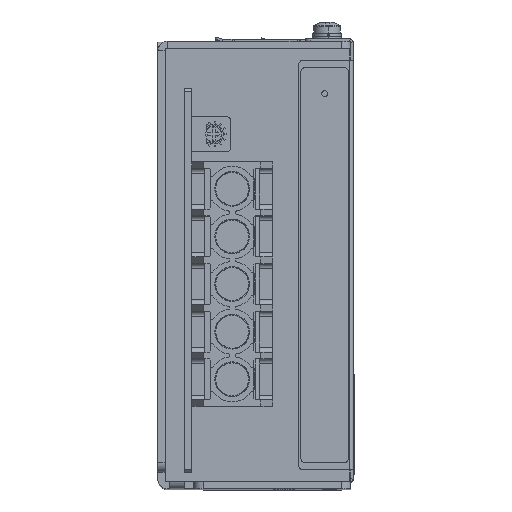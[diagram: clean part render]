
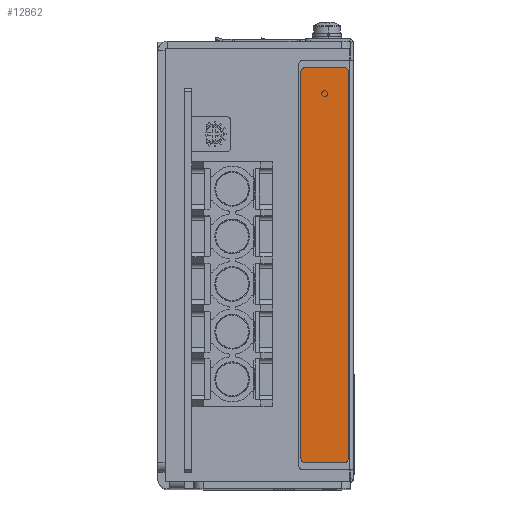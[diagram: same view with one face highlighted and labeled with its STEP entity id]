
A CAD part, top view. The second image highlights one B-rep face of the part: STEP entity #12862.
In plain terms, the highlighted planar face has unit normal (0, 0, 1).
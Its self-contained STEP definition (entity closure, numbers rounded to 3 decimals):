
#640 = CARTESIAN_POINT ( 'NONE',  ( 39., 88.48, 0.2 ) ) ;
#1125 = DIRECTION ( 'NONE',  ( 0., -1., 0. ) ) ;
#2591 = VERTEX_POINT ( 'NONE', #40787 ) ;
#5667 = CARTESIAN_POINT ( 'NONE',  ( 30., 6.48, 0.2 ) ) ;
#9884 = DIRECTION ( 'NONE',  ( 0., 0., 1. ) ) ;
#10285 = ORIENTED_EDGE ( 'NONE', *, *, #62957, .T. ) ;
#10296 = DIRECTION ( 'NONE',  ( 0., -1., 0. ) ) ;
#12388 = ORIENTED_EDGE ( 'NONE', *, *, #60290, .T. ) ;
#12862 = ADVANCED_FACE ( 'NONE', ( #68568 ), #70316, .T. ) ;
#14450 = EDGE_CURVE ( 'NONE', #2591, #29564, #74119, .T. ) ;
#14733 = CARTESIAN_POINT ( 'NONE',  ( 40., 87.48, 0.2 ) ) ;
#14960 = CARTESIAN_POINT ( 'NONE',  ( 39., 6.48, 0.2 ) ) ;
#18701 = CARTESIAN_POINT ( 'NONE',  ( 31., 87.48, 0.2 ) ) ;
#19117 = DIRECTION ( 'NONE',  ( 0., 0., 1. ) ) ;
#19340 = CIRCLE ( 'NONE', #81258, 1. ) ;
#19642 = CARTESIAN_POINT ( 'NONE',  ( 31., 5.48, 0.2 ) ) ;
#19732 = DIRECTION ( 'NONE',  ( 1., 0., 0. ) ) ;
#20747 = CARTESIAN_POINT ( 'NONE',  ( 31., 88.48, 0.2 ) ) ;
#22038 = VERTEX_POINT ( 'NONE', #5667 ) ;
#22477 = DIRECTION ( 'NONE',  ( 0., 1., 0. ) ) ;
#23163 = ORIENTED_EDGE ( 'NONE', *, *, #47238, .T. ) ;
#23413 = DIRECTION ( 'NONE',  ( 0., -1., 0. ) ) ;
#24053 = VECTOR ( 'NONE', #22477, 1000. ) ;
#27004 = LINE ( 'NONE', #640, #33057 ) ;
#27921 = CARTESIAN_POINT ( 'NONE',  ( 31., 6.48, 0.2 ) ) ;
#28529 = CARTESIAN_POINT ( 'NONE',  ( 31., 5.48, 0.2 ) ) ;
#29564 = VERTEX_POINT ( 'NONE', #62586 ) ;
#31298 = CARTESIAN_POINT ( 'NONE',  ( 40., 6.479, 0.2 ) ) ;
#31906 = VERTEX_POINT ( 'NONE', #49742 ) ;
#32217 = DIRECTION ( 'NONE',  ( 0., 0., 1. ) ) ;
#32677 = AXIS2_PLACEMENT_3D ( 'NONE', #27921, #19117, #10296 ) ;
#33057 = VECTOR ( 'NONE', #77544, 1000. ) ;
#34548 = DIRECTION ( 'NONE',  ( 0., -1., 0. ) ) ;
#35460 = AXIS2_PLACEMENT_3D ( 'NONE', #74992, #66188, #57439 ) ;
#37288 = LINE ( 'NONE', #28529, #73511 ) ;
#37989 = CARTESIAN_POINT ( 'NONE',  ( 39., 88.48, 0.2 ) ) ;
#38970 = ORIENTED_EDGE ( 'NONE', *, *, #77529, .T. ) ;
#39239 = ORIENTED_EDGE ( 'NONE', *, *, #79739, .T. ) ;
#40787 = CARTESIAN_POINT ( 'NONE',  ( 39., 5.48, 0.2 ) ) ;
#42602 = AXIS2_PLACEMENT_3D ( 'NONE', #14960, #65505, #56712 ) ;
#42970 = CARTESIAN_POINT ( 'NONE',  ( 39., 87.48, 0.2 ) ) ;
#43262 = CARTESIAN_POINT ( 'NONE',  ( 30., 87.48, 0.2 ) ) ;
#44128 = ORIENTED_EDGE ( 'NONE', *, *, #64295, .T. ) ;
#44258 = EDGE_CURVE ( 'NONE', #81829, #31906, #80187, .T. ) ;
#44661 = VERTEX_POINT ( 'NONE', #19642 ) ;
#47238 = EDGE_CURVE ( 'NONE', #54798, #81829, #27004, .T. ) ;
#47683 = EDGE_LOOP ( 'NONE', ( #58021, #10285, #44128, #12388, #68760, #39239, #38970, #23163 ) ) ;
#48731 = LINE ( 'NONE', #31298, #24053 ) ;
#49742 = CARTESIAN_POINT ( 'NONE',  ( 30., 87.48, 0.2 ) ) ;
#52026 = LINE ( 'NONE', #43262, #72743 ) ;
#54746 = AXIS2_PLACEMENT_3D ( 'NONE', #18701, #9884, #1125 ) ;
#54798 = VERTEX_POINT ( 'NONE', #37989 ) ;
#56712 = DIRECTION ( 'NONE',  ( 0., -1., 0. ) ) ;
#57439 = DIRECTION ( 'NONE',  ( 0., -1., 0. ) ) ;
#58021 = ORIENTED_EDGE ( 'NONE', *, *, #44258, .T. ) ;
#60290 = EDGE_CURVE ( 'NONE', #44661, #2591, #37288, .T. ) ;
#62586 = CARTESIAN_POINT ( 'NONE',  ( 40., 6.479, 0.2 ) ) ;
#62957 = EDGE_CURVE ( 'NONE', #31906, #22038, #52026, .T. ) ;
#64295 = EDGE_CURVE ( 'NONE', #22038, #44661, #77848, .T. ) ;
#65505 = DIRECTION ( 'NONE',  ( 0., 0., 1. ) ) ;
#66188 = DIRECTION ( 'NONE',  ( 0., 0., 1. ) ) ;
#68568 = FACE_OUTER_BOUND ( 'NONE', #47683, .T. ) ;
#68760 = ORIENTED_EDGE ( 'NONE', *, *, #14450, .T. ) ;
#70316 = PLANE ( 'NONE',  #35460 ) ;
#72743 = VECTOR ( 'NONE', #34548, 1000. ) ;
#73511 = VECTOR ( 'NONE', #19732, 1000. ) ;
#74119 = CIRCLE ( 'NONE', #42602, 1. ) ;
#74992 = CARTESIAN_POINT ( 'NONE',  ( 31., 87.48, 0.2 ) ) ;
#77529 = EDGE_CURVE ( 'NONE', #79565, #54798, #19340, .T. ) ;
#77544 = DIRECTION ( 'NONE',  ( -1., 0., 0. ) ) ;
#77848 = CIRCLE ( 'NONE', #32677, 1. ) ;
#79565 = VERTEX_POINT ( 'NONE', #14733 ) ;
#79739 = EDGE_CURVE ( 'NONE', #29564, #79565, #48731, .T. ) ;
#80187 = CIRCLE ( 'NONE', #54746, 1. ) ;
#81258 = AXIS2_PLACEMENT_3D ( 'NONE', #42970, #32217, #23413 ) ;
#81829 = VERTEX_POINT ( 'NONE', #20747 ) ;
